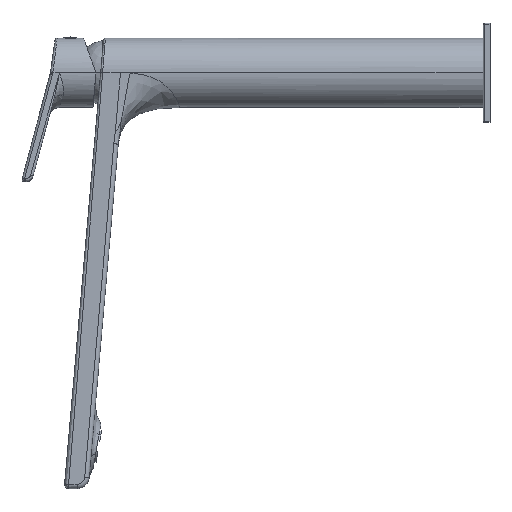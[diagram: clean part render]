
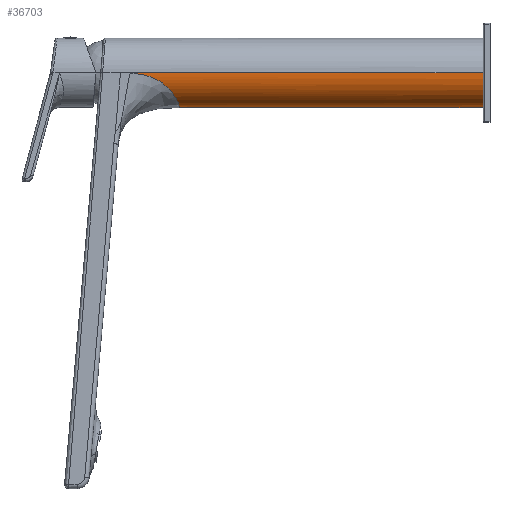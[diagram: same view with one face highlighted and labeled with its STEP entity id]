
A CAD part, left-side view. The second image highlights one B-rep face of the part: STEP entity #36703.
In plain terms, the highlighted cylindrical face has radius 17.5 mm (diameter 35 mm), a partial arc.
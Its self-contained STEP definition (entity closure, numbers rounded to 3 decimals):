
#16627=CARTESIAN_POINT('',(0.,90.,0.));
#16628=DIRECTION('',(0.,1.,0.));
#16629=DIRECTION('',(1.,0.,0.));
#16630=AXIS2_PLACEMENT_3D('',#16627,#16628,#16629);
#16632=DIRECTION('',(0.,1.,0.));
#16633=VECTOR('',#16632,180.588);
#16634=CARTESIAN_POINT('',(17.5,90.,0.));
#16635=LINE('',#16634,#16633);
#16636=CARTESIAN_POINT('',(17.5,270.588,
0.));
#16637=CARTESIAN_POINT('',(17.5,270.437,
-0.002));
#16638=CARTESIAN_POINT('',(17.5,270.132,
-0.006));
#16639=CARTESIAN_POINT('',(17.5,269.616,
-0.016));
#16640=CARTESIAN_POINT('',(17.5,269.049,
-0.033));
#16641=CARTESIAN_POINT('',(17.5,268.638,
-0.05));
#16642=CARTESIAN_POINT('',(17.5,268.434,
-0.06));
#16644=CARTESIAN_POINT('',(17.5,268.434,
-0.06));
#16645=CARTESIAN_POINT('',(17.5,268.232,
-0.069));
#16646=CARTESIAN_POINT('',(17.5,267.827,
-0.09));
#16647=CARTESIAN_POINT('',(17.5,267.226,
-0.129));
#16648=CARTESIAN_POINT('',(17.499,266.634,
-0.176));
#16649=CARTESIAN_POINT('',(17.498,265.858,
-0.247));
#16650=CARTESIAN_POINT('',(17.497,264.906,
-0.353));
#16651=CARTESIAN_POINT('',(17.493,263.758,
-0.516));
#16652=CARTESIAN_POINT('',(17.485,262.557,
-0.724));
#16653=CARTESIAN_POINT('',(17.472,261.271,
-0.997));
#16654=CARTESIAN_POINT('',(17.449,259.87,
-1.357));
#16655=CARTESIAN_POINT('',(17.407,258.346,
-1.834));
#16656=CARTESIAN_POINT('',(17.331,256.704,
-2.459));
#16657=CARTESIAN_POINT('',(17.201,254.968,
-3.267));
#16658=CARTESIAN_POINT('',(17.016,253.472,
-4.12));
#16659=CARTESIAN_POINT('',(16.797,252.271,
-4.923));
#16660=CARTESIAN_POINT('',(16.59,251.375,
-5.587));
#16661=CARTESIAN_POINT('',(16.329,250.49,
-6.312));
#16662=CARTESIAN_POINT('',(16.005,249.626,
-7.097));
#16663=CARTESIAN_POINT('',(15.606,248.788,
-7.939));
#16664=CARTESIAN_POINT('',(15.121,247.986,
-8.83));
#16665=CARTESIAN_POINT('',(14.538,247.225,
-9.764));
#16666=CARTESIAN_POINT('',(13.846,246.513,
-10.726));
#16667=CARTESIAN_POINT('',(13.034,245.856,
-11.702));
#16668=CARTESIAN_POINT('',(12.093,245.259,
-12.675));
#16669=CARTESIAN_POINT('',(11.017,244.727,
-13.623));
#16670=CARTESIAN_POINT('',(9.804,244.263,
-14.523));
#16671=CARTESIAN_POINT('',(8.455,243.869,
-15.351));
#16672=CARTESIAN_POINT('',(6.974,243.549,
-16.08));
#16673=CARTESIAN_POINT('',(5.372,243.301,
-16.685));
#16674=CARTESIAN_POINT('',(3.664,243.126,
-17.143));
#16675=CARTESIAN_POINT('',(1.868,243.023,
-17.432));
#16676=CARTESIAN_POINT('',(0.627,243.,-17.5));
#16677=CARTESIAN_POINT('',(0.,243.,-17.5));
#16679=CARTESIAN_POINT('',(-17.5,268.434,
-0.06));
#16680=CARTESIAN_POINT('',(-17.5,268.232,
-0.069));
#16681=CARTESIAN_POINT('',(-17.5,267.827,
-0.09));
#16682=CARTESIAN_POINT('',(-17.5,267.226,
-0.129));
#16683=CARTESIAN_POINT('',(-17.499,266.634,
-0.176));
#16684=CARTESIAN_POINT('',(-17.498,265.858,
-0.247));
#16685=CARTESIAN_POINT('',(-17.497,264.906,
-0.353));
#16686=CARTESIAN_POINT('',(-17.493,263.758,
-0.516));
#16687=CARTESIAN_POINT('',(-17.485,262.557,
-0.724));
#16688=CARTESIAN_POINT('',(-17.472,261.271,
-0.997));
#16689=CARTESIAN_POINT('',(-17.449,259.87,
-1.357));
#16690=CARTESIAN_POINT('',(-17.407,258.346,
-1.834));
#16691=CARTESIAN_POINT('',(-17.331,256.704,
-2.459));
#16692=CARTESIAN_POINT('',(-17.201,254.968,
-3.267));
#16693=CARTESIAN_POINT('',(-17.016,253.472,
-4.12));
#16694=CARTESIAN_POINT('',(-16.797,252.271,
-4.923));
#16695=CARTESIAN_POINT('',(-16.59,251.375,
-5.587));
#16696=CARTESIAN_POINT('',(-16.329,250.49,
-6.312));
#16697=CARTESIAN_POINT('',(-16.005,249.626,
-7.097));
#16698=CARTESIAN_POINT('',(-15.606,248.788,
-7.939));
#16699=CARTESIAN_POINT('',(-15.121,247.986,
-8.83));
#16700=CARTESIAN_POINT('',(-14.538,247.225,
-9.764));
#16701=CARTESIAN_POINT('',(-13.846,246.513,
-10.726));
#16702=CARTESIAN_POINT('',(-13.034,245.856,
-11.702));
#16703=CARTESIAN_POINT('',(-12.093,245.259,
-12.675));
#16704=CARTESIAN_POINT('',(-11.017,244.727,
-13.623));
#16705=CARTESIAN_POINT('',(-9.804,244.263,
-14.523));
#16706=CARTESIAN_POINT('',(-8.455,243.869,
-15.351));
#16707=CARTESIAN_POINT('',(-6.974,243.549,
-16.08));
#16708=CARTESIAN_POINT('',(-5.372,243.301,
-16.685));
#16709=CARTESIAN_POINT('',(-3.664,243.126,
-17.143));
#16710=CARTESIAN_POINT('',(-1.868,243.023,
-17.432));
#16711=CARTESIAN_POINT('',(-0.627,243.,-17.5));
#16712=CARTESIAN_POINT('',(0.,243.,-17.5));
#16714=CARTESIAN_POINT('',(-17.5,270.588,
0.));
#16715=CARTESIAN_POINT('',(-17.5,270.437,
-0.002));
#16716=CARTESIAN_POINT('',(-17.5,270.132,
-0.006));
#16717=CARTESIAN_POINT('',(-17.5,269.616,
-0.016));
#16718=CARTESIAN_POINT('',(-17.5,269.049,
-0.033));
#16719=CARTESIAN_POINT('',(-17.5,268.638,
-0.05));
#16720=CARTESIAN_POINT('',(-17.5,268.434,
-0.06));
#16722=DIRECTION('',(0.,1.,0.));
#16723=VECTOR('',#16722,180.588);
#16724=CARTESIAN_POINT('',(-17.5,90.,0.));
#16725=LINE('',#16724,#16723);
#16760=CARTESIAN_POINT('',(17.5,270.588,
0.));
#17645=CARTESIAN_POINT('',(0.,243.,-17.5));
#17733=CARTESIAN_POINT('',(-17.5,270.588,
0.));
#18943=VERTEX_POINT('',#17645);
#18945=VERTEX_POINT('',#16644);
#18946=VERTEX_POINT('',#16679);
#19000=VERTEX_POINT('',#17733);
#19001=VERTEX_POINT('',#16760);
#20080=CARTESIAN_POINT('',(17.5,90.,0.));
#20081=CARTESIAN_POINT('',(-17.5,90.,0.));
#20082=VERTEX_POINT('',#20080);
#20083=VERTEX_POINT('',#20081);
#36685=CARTESIAN_POINT('',(0.,0.,0.));
#36686=DIRECTION('',(0.,1.,0.));
#36687=DIRECTION('',(0.,0.,-1.));
#36688=AXIS2_PLACEMENT_3D('',#36685,#36686,#36687);
#36689=CYLINDRICAL_SURFACE('',#36688,17.5);
#36690=ORIENTED_EDGE('',*,*,#28613,.F.);
#36691=ORIENTED_EDGE('',*,*,#28593,.T.);
#36693=ORIENTED_EDGE('',*,*,#36692,.T.);
#36695=ORIENTED_EDGE('',*,*,#36694,.T.);
#36697=ORIENTED_EDGE('',*,*,#36696,.F.);
#36699=ORIENTED_EDGE('',*,*,#36698,.F.);
#36700=ORIENTED_EDGE('',*,*,#28582,.F.);
#36701=EDGE_LOOP('',(#36690,#36691,#36693,#36695,#36697,#36699,#36700));
#36702=FACE_OUTER_BOUND('',#36701,.F.);
#36703=ADVANCED_FACE('',(#36702),#36689,.T.);
#16631=CIRCLE('',#16630,17.5);
#16643=B_SPLINE_CURVE_WITH_KNOTS('',3,(#16636,#16637,#16638,#16639,#16640,
#16641,#16642),.UNSPECIFIED.,.F.,.F.,(4,1,1,1,4),(0.,0.208,
0.416,0.708,1.),.UNSPECIFIED.);
#16678=B_SPLINE_CURVE_WITH_KNOTS('',3,(#16644,#16645,#16646,#16647,#16648,
#16649,#16650,#16651,#16652,#16653,#16654,#16655,#16656,#16657,#16658,#16659,
#16660,#16661,#16662,#16663,#16664,#16665,#16666,#16667,#16668,#16669,#16670,
#16671,#16672,#16673,#16674,#16675,#16676,#16677),.UNSPECIFIED.,.F.,.F.,(4,1,1,
1,1,1,1,1,1,1,1,1,1,1,1,1,1,1,1,1,1,1,1,1,1,1,1,1,1,1,1,4),(0.,
0.025,0.05,0.076,0.101,
0.151,0.201,0.251,0.301,
0.351,0.401,0.451,0.501,
0.551,0.576,0.601,0.626,
0.651,0.676,0.701,0.726,
0.75,0.775,0.8,0.825,
0.85,0.875,0.9,0.925,
0.95,0.975,1.),.UNSPECIFIED.);
#16713=B_SPLINE_CURVE_WITH_KNOTS('',3,(#16679,#16680,#16681,#16682,#16683,
#16684,#16685,#16686,#16687,#16688,#16689,#16690,#16691,#16692,#16693,#16694,
#16695,#16696,#16697,#16698,#16699,#16700,#16701,#16702,#16703,#16704,#16705,
#16706,#16707,#16708,#16709,#16710,#16711,#16712),.UNSPECIFIED.,.F.,.F.,(4,1,1,
1,1,1,1,1,1,1,1,1,1,1,1,1,1,1,1,1,1,1,1,1,1,1,1,1,1,1,1,4),(0.,
0.025,0.05,0.076,0.101,
0.151,0.201,0.251,0.301,
0.351,0.401,0.451,0.501,
0.551,0.576,0.601,0.626,
0.651,0.676,0.701,0.726,
0.75,0.775,0.8,0.825,
0.85,0.875,0.9,0.925,
0.95,0.975,1.),.UNSPECIFIED.);
#16721=B_SPLINE_CURVE_WITH_KNOTS('',3,(#16714,#16715,#16716,#16717,#16718,
#16719,#16720),.UNSPECIFIED.,.F.,.F.,(4,1,1,1,4),(0.,0.208,
0.416,0.708,1.),.UNSPECIFIED.);
#28582=EDGE_CURVE('',#20083,#19000,#16725,.T.);
#28593=EDGE_CURVE('',#20082,#19001,#16635,.T.);
#28613=EDGE_CURVE('',#20082,#20083,#16631,.T.);
#36692=EDGE_CURVE('',#19001,#18945,#16643,.T.);
#36694=EDGE_CURVE('',#18945,#18943,#16678,.T.);
#36696=EDGE_CURVE('',#18946,#18943,#16713,.T.);
#36698=EDGE_CURVE('',#19000,#18946,#16721,.T.);
